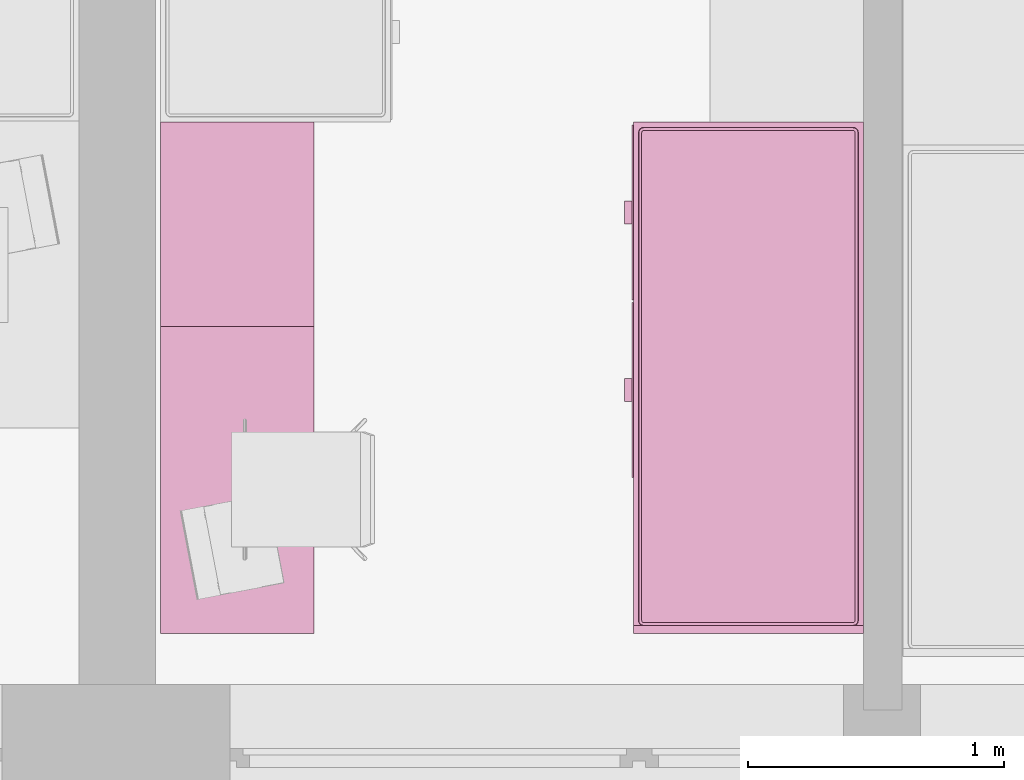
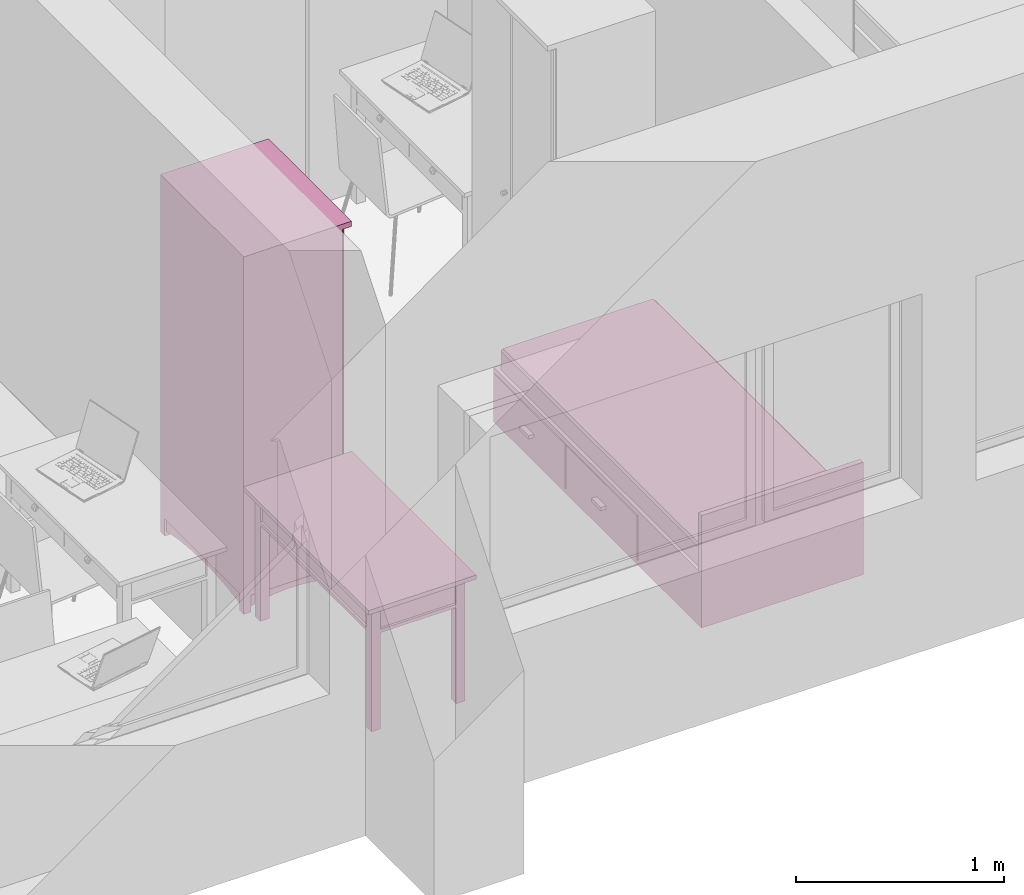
# One storey, part 61 of 165: 3 furnishings.
"""IFC2X3 building model written with IfcOpenShell, lengths in millimetres."""

from ifc_helpers import new_model, entity, si_unit, converted_unit, money_unit, direction, frame, origin_with_axes, place, context, subcontext, project, spatial, faceted_brep, source, transform, mapped, material, material_list, type_object, element, save


model = new_model("IFC2X3")

# Units and contexts
model_context = context("Model", 3, precision=1e-05, world=origin_with_axes(), true_north=direction((0.0, 1.0)))
body_context = subcontext(model_context, "Body", "Model", "MODEL_VIEW")
ifc_project = project(units=[si_unit("LENGTHUNIT", "METRE", prefix="MILLI"), si_unit("AREAUNIT", "SQUARE_METRE"), si_unit("VOLUMEUNIT", "CUBIC_METRE"), converted_unit("PLANEANGLEUNIT", "DEGREE", entity("IfcPlaneAngleMeasure", 0.0174532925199), si_unit("PLANEANGLEUNIT", "RADIAN"), dimensions=[0, 0, 0, 0, 0, 0, 0]), si_unit("SOLIDANGLEUNIT", "STERADIAN"), money_unit("USD"), converted_unit("TIMEUNIT", "Year", entity("IfcTimeMeasure", 31556926.0), si_unit("TIMEUNIT", "SECOND"), dimensions=[0, 0, 0, 0, 0, 0, 0]), si_unit("MASSUNIT", "GRAM"), si_unit("THERMODYNAMICTEMPERATUREUNIT", "DEGREE_CELSIUS"), si_unit("LUMINOUSINTENSITYUNIT", "LUMEN")], contexts=[model_context])

# Site, building, storey
site_placement = place(None, origin_with_axes())
site = spatial("IfcSite", under=ifc_project, at=site_placement, Name="Site", CompositionType="ELEMENT")
building_placement = place(site_placement, origin_with_axes())
building = spatial("IfcBuilding", under=site, at=building_placement, Name="Building", CompositionType="ELEMENT")
storey_placement = place(building_placement, frame((0.0, 0.0, 6300.0), z_axis=(0.0, 0.0, 1.0), x_axis=(1.0, 0.0, 0.0)))
storey = spatial("IfcBuildingStorey", under=building, at=storey_placement, Name="4KORRUS", CompositionType="ELEMENT", Elevation=6300.0)

# Furnishings
ifc_material = material(Name="Background")
ifc_material_list = material_list([ifc_material])
furnishing_element_type_1 = type_object("IfcFurnishingElementType", Name="Bed 19")
shared_shape_1 = source(origin_with_axes(), body_context, "Body", "Brep", [
    faceted_brep([(900.0, 1970.0, 0.0), (0.0, 1970.0, 0.0), (0.0, 2000.0, 0.0), (900.0, 2000.0, 0.0), (900.0, 1970.0, 660.0), (0.0, 1970.0, 660.0), (0.0, 2000.0, 660.0), (900.0, 2000.0, 660.0)], [[[0, 1, 2, 3]], [[1, 0, 4, 5]], [[2, 1, 5, 6]], [[3, 2, 6, 7]], [[0, 3, 7, 4]], [[5, 4, 7, 6]]]),
    faceted_brep([(900.0, 0.0, 0.0), (0.0, 0.0, 0.0), (0.0, 1970.0, 0.0), (900.0, 1970.0, 0.0), (900.0, 0.0, 320.0), (0.0, 0.0, 320.0), (0.0, 1970.0, 320.0), (900.0, 1970.0, 320.0)], [[[0, 1, 2, 3]], [[1, 0, 4, 5]], [[2, 1, 5, 6]], [[3, 2, 6, 7]], [[0, 3, 7, 4]], [[5, 4, 7, 6]]]),
    faceted_brep([(905.0, 10.0, 30.0), (900.0, 10.0, 30.0), (900.0, 695.0, 30.0), (905.0, 695.0, 30.0), (905.0, 10.0, 290.0), (900.0, 10.0, 290.0), (900.0, 695.0, 290.0), (905.0, 695.0, 290.0)], [[[0, 1, 2, 3]], [[1, 0, 4, 5]], [[2, 1, 5, 6]], [[3, 2, 6, 7]], [[0, 3, 7, 4]], [[5, 4, 7, 6]]]),
    faceted_brep([(935.0, 307.5, 150.0), (905.0, 307.5, 150.0), (905.0, 397.5, 150.0), (935.0, 397.5, 150.0), (935.0, 307.5, 170.0), (905.0, 307.5, 170.0), (905.0, 397.5, 170.0), (935.0, 397.5, 170.0)], [[[0, 1, 2, 3]], [[1, 0, 4, 5]], [[2, 1, 5, 6]], [[3, 2, 6, 7]], [[0, 3, 7, 4]], [[5, 4, 7, 6]]]),
    faceted_brep([(905.0, 705.0, 30.0), (900.0, 705.0, 30.0), (900.0, 1390.0, 30.0), (905.0, 1390.0, 30.0), (905.0, 705.0, 290.0), (900.0, 705.0, 290.0), (900.0, 1390.0, 290.0), (905.0, 1390.0, 290.0)], [[[0, 1, 2, 3]], [[1, 0, 4, 5]], [[2, 1, 5, 6]], [[3, 2, 6, 7]], [[0, 3, 7, 4]], [[5, 4, 7, 6]]]),
    faceted_brep([(935.0, 1002.5, 150.0), (905.0, 1002.5, 150.0), (905.0, 1092.5, 150.0), (935.0, 1092.5, 150.0), (935.0, 1002.5, 170.0), (905.0, 1002.5, 170.0), (905.0, 1092.5, 170.0), (935.0, 1092.5, 170.0)], [[[0, 1, 2, 3]], [[1, 0, 4, 5]], [[2, 1, 5, 6]], [[3, 2, 6, 7]], [[0, 3, 7, 4]], [[5, 4, 7, 6]]]),
    faceted_brep([(20.0, 40.0, 350.0), (20.0, 1950.0, 350.0), (21.522, 1957.654, 350.0), (25.858, 1964.142, 350.0), (32.346, 1968.478, 350.0), (40.0, 1970.0, 350.0), (860.0, 1970.0, 350.0), (867.654, 1968.478, 350.0), (874.142, 1964.142, 350.0), (878.478, 1957.654, 350.0), (880.0, 1950.0, 350.0), (880.0, 40.0, 350.0), (878.478, 32.346, 350.0), (874.142, 25.858, 350.0), (867.654, 21.522, 350.0), (860.0, 20.0, 350.0), (40.0, 20.0, 350.0), (32.346, 21.522, 350.0), (25.858, 25.858, 350.0), (21.522, 32.346, 350.0), (20.0, 40.0, 420.0), (20.0, 1950.0, 420.0), (21.522, 1957.654, 420.0), (25.858, 1964.142, 420.0), (32.346, 1968.478, 420.0), (40.0, 1970.0, 420.0), (860.0, 1970.0, 420.0), (867.654, 1968.478, 420.0), (874.142, 1964.142, 420.0), (878.478, 1957.654, 420.0), (880.0, 1950.0, 420.0), (880.0, 40.0, 420.0), (878.478, 32.346, 420.0), (874.142, 25.858, 420.0), (867.654, 21.522, 420.0), (860.0, 20.0, 420.0), (40.0, 20.0, 420.0), (32.346, 21.522, 420.0), (25.858, 25.858, 420.0), (21.522, 32.346, 420.0), (21.522, 40.15, 427.654), (21.522, 1949.85, 427.654), (22.956, 1957.06, 427.654), (26.955, 1963.045, 427.654), (32.94, 1967.044, 427.654), (40.15, 1968.478, 427.654), (859.85, 1968.478, 427.654), (867.06, 1967.044, 427.654), (873.045, 1963.045, 427.654), (877.044, 1957.06, 427.654), (878.478, 1949.85, 427.654), (878.478, 40.15, 427.654), (877.044, 32.94, 427.654), (873.045, 26.955, 427.654), (867.06, 22.956, 427.654), (859.85, 21.522, 427.654), (40.15, 21.522, 427.654), (32.94, 22.956, 427.654), (26.955, 26.955, 427.654), (22.956, 32.94, 427.654), (32.346, 41.216, 438.478), (32.346, 1948.784, 438.478), (33.152, 1952.836, 438.478), (34.759, 1955.241, 438.478), (37.164, 1956.848, 438.478), (41.216, 1957.654, 438.478), (858.784, 1957.654, 438.478), (862.836, 1956.848, 438.478), (865.241, 1955.241, 438.478), (866.848, 1952.836, 438.478), (867.654, 1948.784, 438.478), (867.654, 41.216, 438.478), (866.848, 37.164, 438.478), (865.241, 34.759, 438.478), (862.836, 33.152, 438.478), (858.784, 32.346, 438.478), (41.216, 32.346, 438.478), (37.164, 33.152, 438.478), (34.759, 34.759, 438.478), (33.152, 37.164, 438.478), (40.0, 41.97, 440.0), (40.0, 1948.03, 440.0), (40.327, 1949.673, 440.0), (40.0, 1950.0, 439.924), (41.97, 1950.0, 440.0), (858.03, 1950.0, 440.0), (859.673, 1949.673, 440.0), (860.0, 1950.0, 439.924), (860.0, 1948.03, 440.0), (860.0, 41.97, 440.0), (859.673, 40.327, 440.0), (860.0, 40.0, 439.924), (858.03, 40.0, 440.0), (41.97, 40.0, 440.0), (40.327, 40.327, 440.0), (40.0, 40.0, 439.924)], [[[0, 1, 2, 3, 4, 5, 6, 7, 8, 9, 10, 11, 12, 13, 14, 15, 16, 17, 18, 19]], [[1, 0, 20, 21]], [[2, 1, 21, 22]], [[3, 2, 22, 23]], [[4, 3, 23, 24]], [[5, 4, 24, 25]], [[6, 5, 25, 26]], [[7, 6, 26, 27]], [[8, 7, 27, 28]], [[9, 8, 28, 29]], [[10, 9, 29, 30]], [[11, 10, 30, 31]], [[12, 11, 31, 32]], [[13, 12, 32, 33]], [[14, 13, 33, 34]], [[15, 14, 34, 35]], [[16, 15, 35, 36]], [[17, 16, 36, 37]], [[18, 17, 37, 38]], [[19, 18, 38, 39]], [[0, 19, 39, 20]], [[21, 20, 40, 41]], [[22, 21, 41, 42]], [[23, 22, 42, 43]], [[24, 23, 43, 44]], [[25, 24, 44, 45]], [[26, 25, 45, 46]], [[27, 26, 46, 47]], [[28, 27, 47, 48]], [[29, 28, 48, 49]], [[30, 29, 49, 50]], [[31, 30, 50, 51]], [[32, 31, 51, 52]], [[33, 32, 52, 53]], [[34, 33, 53, 54]], [[35, 34, 54, 55]], [[36, 35, 55, 56]], [[37, 36, 56, 57]], [[38, 37, 57, 58]], [[39, 38, 58, 59]], [[20, 39, 59, 40]], [[41, 40, 60, 61]], [[42, 41, 61, 62]], [[43, 42, 62, 63]], [[44, 43, 63, 64]], [[45, 44, 64, 65]], [[46, 45, 65, 66]], [[47, 46, 66, 67]], [[48, 47, 67, 68]], [[49, 48, 68, 69]], [[50, 49, 69, 70]], [[51, 50, 70, 71]], [[52, 51, 71, 72]], [[53, 52, 72, 73]], [[54, 53, 73, 74]], [[55, 54, 74, 75]], [[56, 55, 75, 76]], [[57, 56, 76, 77]], [[58, 57, 77, 78]], [[59, 58, 78, 79]], [[40, 59, 79, 60]], [[61, 60, 80, 81]], [[62, 61, 81, 82, 83]], [[63, 62, 83]], [[64, 63, 83]], [[65, 64, 83, 82, 84]], [[66, 65, 84, 85]], [[67, 66, 85, 86, 87]], [[68, 67, 87]], [[69, 68, 87]], [[70, 69, 87, 86, 88]], [[71, 70, 88, 89]], [[72, 71, 89, 90, 91]], [[73, 72, 91]], [[74, 73, 91]], [[75, 74, 91, 90, 92]], [[76, 75, 92, 93]], [[77, 76, 93, 94, 95]], [[78, 77, 95]], [[79, 78, 95]], [[60, 79, 95, 94, 80]], [[81, 80, 94, 93, 92, 90, 89, 88, 86, 85, 84, 82]]]),
    faceted_brep([(20.0, 40.0, 350.0), (21.522, 32.346, 350.0), (25.858, 25.858, 350.0), (32.346, 21.522, 350.0), (40.0, 20.0, 350.0), (860.0, 20.0, 350.0), (867.654, 21.522, 350.0), (874.142, 25.858, 350.0), (878.478, 32.346, 350.0), (880.0, 40.0, 350.0), (880.0, 1950.0, 350.0), (878.478, 1957.654, 350.0), (874.142, 1964.142, 350.0), (867.654, 1968.478, 350.0), (860.0, 1970.0, 350.0), (40.0, 1970.0, 350.0), (32.346, 1968.478, 350.0), (25.858, 1964.142, 350.0), (21.522, 1957.654, 350.0), (20.0, 1950.0, 350.0), (20.0, 40.0, 320.0), (21.522, 32.346, 320.0), (25.858, 25.858, 320.0), (32.346, 21.522, 320.0), (40.0, 20.0, 320.0), (860.0, 20.0, 320.0), (867.654, 21.522, 320.0), (874.142, 25.858, 320.0), (878.478, 32.346, 320.0), (880.0, 40.0, 320.0), (880.0, 1950.0, 320.0), (878.478, 1957.654, 320.0), (874.142, 1964.142, 320.0), (867.654, 1968.478, 320.0), (860.0, 1970.0, 320.0), (40.0, 1970.0, 320.0), (32.346, 1968.478, 320.0), (25.858, 1964.142, 320.0), (21.522, 1957.654, 320.0), (20.0, 1950.0, 320.0)], [[[0, 1, 2, 3, 4, 5, 6, 7, 8, 9, 10, 11, 12, 13, 14, 15, 16, 17, 18, 19]], [[0, 20, 21, 1]], [[1, 21, 22, 2]], [[2, 22, 23, 3]], [[3, 23, 24, 4]], [[4, 24, 25, 5]], [[5, 25, 26, 6]], [[6, 26, 27, 7]], [[7, 27, 28, 8]], [[8, 28, 29, 9]], [[9, 29, 30, 10]], [[10, 30, 31, 11]], [[11, 31, 32, 12]], [[12, 32, 33, 13]], [[13, 33, 34, 14]], [[14, 34, 35, 15]], [[15, 35, 36, 16]], [[16, 36, 37, 17]], [[17, 37, 38, 18]], [[18, 38, 39, 19]], [[19, 39, 20, 0]], [[20, 39, 38, 37, 36, 35, 34, 33, 32, 31, 30, 29, 28, 27, 26, 25, 24, 23, 22, 21]]]),
])
furnishing_1_placement = place(storey_placement, frame((-39220.2967033, -17439.2398994, 0.0), z_axis=(0.0, 0.0, 1.0), x_axis=(-1.0, 0.0, 0.0)))
element("IfcFurnishingElement", 1, at=furnishing_1_placement, inside=storey, type_object=furnishing_element_type_1, material=ifc_material_list, Name="FU - 013", context=body_context, shape_type="MappedRepresentation", body=[
    mapped(shared_shape_1, transform((0.0, 0.0, 0.0))),
])
furnishing_element_type_2 = type_object("IfcFurnishingElementType", Name="Cupboard 19")
shared_shape_2 = source(origin_with_axes(), body_context, "Body", "Brep", [
    faceted_brep([(780.0, 600.0, 120.0), (780.0, 600.0, 2050.0), (780.0, 580.0, 2050.0), (780.0, 580.0, 120.0), (20.0, 600.0, 120.0), (20.0, 600.0, 2050.0), (20.0, 580.0, 2050.0), (20.0, 580.0, 120.0)], [[[0, 1, 2, 3]], [[4, 5, 1, 0]], [[1, 5, 6, 2]], [[3, 2, 6, 7]], [[0, 3, 7, 4]], [[7, 6, 5, 4]]]),
    faceted_brep([(0.0, 50.0, 100.0), (0.0, 600.0, 100.0), (20.0, 600.0, 100.0), (20.0, 50.0, 100.0), (0.0, 50.0, 2070.0), (0.0, 600.0, 2070.0), (20.0, 600.0, 2070.0), (20.0, 50.0, 2070.0)], [[[0, 1, 2, 3]], [[0, 4, 5, 1]], [[1, 5, 6, 2]], [[2, 6, 7, 3]], [[3, 7, 4, 0]], [[7, 6, 5, 4]]]),
    faceted_brep([(780.0, 50.0, 100.0), (780.0, 600.0, 100.0), (800.0, 600.0, 100.0), (800.0, 50.0, 100.0), (780.0, 50.0, 2070.0), (780.0, 600.0, 2070.0), (800.0, 600.0, 2070.0), (800.0, 50.0, 2070.0)], [[[0, 1, 2, 3]], [[0, 4, 5, 1]], [[1, 5, 6, 2]], [[2, 6, 7, 3]], [[3, 7, 4, 0]], [[7, 6, 5, 4]]]),
    faceted_brep([(20.0, 50.0, 100.0), (20.0, 600.0, 100.0), (780.0, 600.0, 100.0), (780.0, 50.0, 100.0), (20.0, 50.0, 120.0), (20.0, 600.0, 120.0), (780.0, 600.0, 120.0), (780.0, 50.0, 120.0)], [[[0, 1, 2, 3]], [[0, 4, 5, 1]], [[1, 5, 6, 2]], [[2, 6, 7, 3]], [[3, 7, 4, 0]], [[7, 6, 5, 4]]]),
    faceted_brep([(20.0, 50.0, 2050.0), (20.0, 600.0, 2050.0), (780.0, 600.0, 2050.0), (780.0, 50.0, 2050.0), (20.0, 50.0, 2070.0), (20.0, 600.0, 2070.0), (780.0, 600.0, 2070.0), (780.0, 50.0, 2070.0)], [[[0, 1, 2, 3]], [[0, 4, 5, 1]], [[1, 5, 6, 2]], [[2, 6, 7, 3]], [[3, 7, 4, 0]], [[7, 6, 5, 4]]]),
    faceted_brep([(0.0, 600.0, 2070.0), (0.0, 0.0, 2070.0), (0.0, 0.0, 2100.0), (0.0, 600.0, 2100.0), (800.0, 600.0, 2070.0), (800.0, 0.0, 2070.0), (800.0, 0.0, 2100.0), (800.0, 600.0, 2100.0)], [[[0, 1, 2, 3]], [[0, 4, 5, 1]], [[1, 5, 6, 2]], [[3, 2, 6, 7]], [[4, 0, 3, 7]], [[5, 4, 7, 6]]]),
    faceted_brep([(760.0, 590.0, 25.0), (760.0, 570.0, 25.0), (640.962, 570.0, 45.8), (640.962, 590.0, 45.8), (760.0, 590.0, 100.0), (760.0, 570.0, 100.0), (40.0, 570.0, 100.0), (40.0, 570.0, 25.0), (159.038, 570.0, 45.8), (279.23, 570.0, 58.32), (400.0, 570.0, 62.5), (520.77, 570.0, 58.32), (520.77, 590.0, 58.32), (400.0, 590.0, 62.5), (279.23, 590.0, 58.32), (159.038, 590.0, 45.8), (40.0, 590.0, 25.0), (40.0, 590.0, 100.0)], [[[0, 1, 2, 3]], [[4, 5, 1, 0]], [[1, 5, 6, 7, 8, 9, 10, 11, 2]], [[3, 2, 11, 12]], [[0, 3, 12, 13, 14, 15, 16, 17, 4]], [[17, 6, 5, 4]], [[16, 7, 6, 17]], [[15, 8, 7, 16]], [[14, 9, 8, 15]], [[13, 10, 9, 14]], [[12, 11, 10, 13]]]),
    faceted_brep([(760.0, 80.0, 25.0), (760.0, 60.0, 25.0), (640.962, 60.0, 45.8), (640.962, 80.0, 45.8), (760.0, 80.0, 100.0), (760.0, 60.0, 100.0), (40.0, 60.0, 100.0), (40.0, 60.0, 25.0), (159.038, 60.0, 45.8), (279.23, 60.0, 58.32), (400.0, 60.0, 62.5), (520.77, 60.0, 58.32), (520.77, 80.0, 58.32), (400.0, 80.0, 62.5), (279.23, 80.0, 58.32), (159.038, 80.0, 45.8), (40.0, 80.0, 25.0), (40.0, 80.0, 100.0)], [[[0, 1, 2, 3]], [[4, 5, 1, 0]], [[1, 5, 6, 7, 8, 9, 10, 11, 2]], [[3, 2, 11, 12]], [[0, 3, 12, 13, 14, 15, 16, 17, 4]], [[17, 6, 5, 4]], [[16, 7, 6, 17]], [[15, 8, 7, 16]], [[14, 9, 8, 15]], [[13, 10, 9, 14]], [[12, 11, 10, 13]]]),
    faceted_brep([(790.0, 90.0, 25.0), (770.0, 90.0, 25.0), (770.0, 141.266, 38.072), (790.0, 141.266, 38.072), (790.0, 90.0, 100.0), (770.0, 90.0, 100.0), (770.0, 560.0, 100.0), (770.0, 560.0, 25.0), (770.0, 508.734, 38.072), (770.0, 456.752, 47.92), (770.0, 404.257, 54.508), (770.0, 351.453, 57.808), (770.0, 298.547, 57.808), (770.0, 245.743, 54.508), (770.0, 193.248, 47.92), (790.0, 193.248, 47.92), (790.0, 245.743, 54.508), (790.0, 298.547, 57.808), (790.0, 351.453, 57.808), (790.0, 404.257, 54.508), (790.0, 456.752, 47.92), (790.0, 508.734, 38.072), (790.0, 560.0, 25.0), (790.0, 560.0, 100.0)], [[[0, 1, 2, 3]], [[4, 5, 1, 0]], [[1, 5, 6, 7, 8, 9, 10, 11, 12, 13, 14, 2]], [[3, 2, 14, 15]], [[0, 3, 15, 16, 17, 18, 19, 20, 21, 22, 23, 4]], [[23, 6, 5, 4]], [[22, 7, 6, 23]], [[21, 8, 7, 22]], [[20, 9, 8, 21]], [[19, 10, 9, 20]], [[18, 11, 10, 19]], [[17, 12, 11, 18]], [[16, 13, 12, 17]], [[15, 14, 13, 16]]]),
    faceted_brep([(30.0, 90.0, 25.0), (10.0, 90.0, 25.0), (10.0, 141.266, 38.072), (30.0, 141.266, 38.072), (30.0, 90.0, 100.0), (10.0, 90.0, 100.0), (10.0, 560.0, 100.0), (10.0, 560.0, 25.0), (10.0, 508.734, 38.072), (10.0, 456.752, 47.92), (10.0, 404.257, 54.508), (10.0, 351.453, 57.808), (10.0, 298.547, 57.808), (10.0, 245.743, 54.508), (10.0, 193.248, 47.92), (30.0, 193.248, 47.92), (30.0, 245.743, 54.508), (30.0, 298.547, 57.808), (30.0, 351.453, 57.808), (30.0, 404.257, 54.508), (30.0, 456.752, 47.92), (30.0, 508.734, 38.072), (30.0, 560.0, 25.0), (30.0, 560.0, 100.0)], [[[0, 1, 2, 3]], [[4, 5, 1, 0]], [[1, 5, 6, 7, 8, 9, 10, 11, 12, 13, 14, 2]], [[3, 2, 14, 15]], [[0, 3, 15, 16, 17, 18, 19, 20, 21, 22, 23, 4]], [[23, 6, 5, 4]], [[22, 7, 6, 23]], [[21, 8, 7, 22]], [[20, 9, 8, 21]], [[19, 10, 9, 20]], [[18, 11, 10, 19]], [[17, 12, 11, 18]], [[16, 13, 12, 17]], [[15, 14, 13, 16]]]),
    faceted_brep([(760.0, 560.0, 0.0), (760.0, 560.0, 100.0), (760.0, 600.0, 100.0), (760.0, 600.0, 0.0), (800.0, 560.0, 0.0), (800.0, 560.0, 100.0), (800.0, 600.0, 100.0), (800.0, 600.0, 0.0)], [[[0, 1, 2, 3]], [[4, 5, 1, 0]], [[1, 5, 6, 2]], [[3, 2, 6, 7]], [[0, 3, 7, 4]], [[7, 6, 5, 4]]]),
    faceted_brep([(0.0, 560.0, 0.0), (0.0, 560.0, 100.0), (0.0, 600.0, 100.0), (0.0, 600.0, 0.0), (40.0, 560.0, 0.0), (40.0, 560.0, 100.0), (40.0, 600.0, 100.0), (40.0, 600.0, 0.0)], [[[0, 1, 2, 3]], [[4, 5, 1, 0]], [[1, 5, 6, 2]], [[3, 2, 6, 7]], [[0, 3, 7, 4]], [[7, 6, 5, 4]]]),
    faceted_brep([(760.0, 50.0, 0.0), (760.0, 50.0, 100.0), (760.0, 90.0, 100.0), (760.0, 90.0, 0.0), (800.0, 50.0, 0.0), (800.0, 50.0, 100.0), (800.0, 90.0, 100.0), (800.0, 90.0, 0.0)], [[[0, 1, 2, 3]], [[4, 5, 1, 0]], [[1, 5, 6, 2]], [[3, 2, 6, 7]], [[0, 3, 7, 4]], [[7, 6, 5, 4]]]),
    faceted_brep([(0.0, 50.0, 0.0), (0.0, 50.0, 100.0), (0.0, 90.0, 100.0), (0.0, 90.0, 0.0), (40.0, 50.0, 0.0), (40.0, 50.0, 100.0), (40.0, 90.0, 100.0), (40.0, 90.0, 0.0)], [[[0, 1, 2, 3]], [[4, 5, 1, 0]], [[1, 5, 6, 2]], [[3, 2, 6, 7]], [[0, 3, 7, 4]], [[7, 6, 5, 4]]]),
    faceted_brep([(780.0, 580.0, 587.5), (780.0, 580.0, 607.5), (780.0, 50.0, 607.5), (780.0, 50.0, 587.5), (20.0, 580.0, 587.5), (20.0, 580.0, 607.5), (20.0, 50.0, 607.5), (20.0, 50.0, 587.5)], [[[0, 1, 2, 3]], [[4, 5, 1, 0]], [[1, 5, 6, 2]], [[3, 2, 6, 7]], [[0, 3, 7, 4]], [[7, 6, 5, 4]]]),
    faceted_brep([(780.0, 580.0, 1075.0), (780.0, 580.0, 1095.0), (780.0, 50.0, 1095.0), (780.0, 50.0, 1075.0), (20.0, 580.0, 1075.0), (20.0, 580.0, 1095.0), (20.0, 50.0, 1095.0), (20.0, 50.0, 1075.0)], [[[0, 1, 2, 3]], [[4, 5, 1, 0]], [[1, 5, 6, 2]], [[3, 2, 6, 7]], [[0, 3, 7, 4]], [[7, 6, 5, 4]]]),
    faceted_brep([(780.0, 580.0, 1562.5), (780.0, 580.0, 1582.5), (780.0, 50.0, 1582.5), (780.0, 50.0, 1562.5), (20.0, 580.0, 1562.5), (20.0, 580.0, 1582.5), (20.0, 50.0, 1582.5), (20.0, 50.0, 1562.5)], [[[0, 1, 2, 3]], [[4, 5, 1, 0]], [[1, 5, 6, 2]], [[3, 2, 6, 7]], [[0, 3, 7, 4]], [[7, 6, 5, 4]]]),
    faceted_brep([(789.5, 50.0, 110.5), (400.5, 50.0, 110.5), (400.5, 50.0, 2059.5), (789.5, 50.0, 2059.5), (789.5, 40.0, 110.5), (400.5, 40.0, 110.5), (400.5, 40.0, 2059.5), (789.5, 40.0, 2059.5), (779.5, 30.0, 120.5), (410.5, 30.0, 120.5), (410.5, 30.0, 2049.5), (779.5, 30.0, 2049.5)], [[[0, 1, 2, 3]], [[0, 4, 5, 1]], [[1, 5, 6, 2]], [[2, 6, 7, 3]], [[3, 7, 4, 0]], [[4, 8, 9, 5]], [[5, 9, 10, 6]], [[6, 10, 11, 7]], [[7, 11, 8, 4]], [[10, 9, 8, 11]]]),
    faceted_brep([(399.5, 50.0, 110.5), (10.5, 50.0, 110.5), (10.5, 50.0, 2059.5), (399.5, 50.0, 2059.5), (399.5, 40.0, 110.5), (10.5, 40.0, 110.5), (10.5, 40.0, 2059.5), (399.5, 40.0, 2059.5), (389.5, 30.0, 120.5), (20.5, 30.0, 120.5), (20.5, 30.0, 2049.5), (389.5, 30.0, 2049.5)], [[[0, 1, 2, 3]], [[0, 4, 5, 1]], [[1, 5, 6, 2]], [[2, 6, 7, 3]], [[3, 7, 4, 0]], [[4, 8, 9, 5]], [[5, 9, 10, 6]], [[6, 10, 11, 7]], [[7, 11, 8, 4]], [[10, 9, 8, 11]]]),
    faceted_brep([(339.608, 30.0, 954.0), (338.0, 30.0, 960.0), (339.608, 30.0, 966.0), (344.0, 30.0, 970.392), (350.0, 30.0, 972.0), (356.0, 30.0, 970.392), (360.392, 30.0, 966.0), (362.0, 30.0, 960.0), (360.392, 30.0, 954.0), (356.0, 30.0, 949.608), (350.0, 30.0, 948.0), (344.0, 30.0, 949.608), (339.608, 5.0, 954.0), (338.0, 5.0, 960.0), (339.608, 5.0, 966.0), (344.0, 5.0, 970.392), (350.0, 5.0, 972.0), (356.0, 5.0, 970.392), (360.392, 5.0, 966.0), (362.0, 5.0, 960.0), (360.392, 5.0, 954.0), (356.0, 5.0, 949.608), (350.0, 5.0, 948.0), (344.0, 5.0, 949.608)], [[[0, 1, 2, 3, 4, 5, 6, 7, 8, 9, 10, 11]], [[0, 12, 13, 1]], [[1, 13, 14, 2]], [[2, 14, 15, 3]], [[3, 15, 16, 4]], [[4, 16, 17, 5]], [[5, 17, 18, 6]], [[6, 18, 19, 7]], [[7, 19, 20, 8]], [[8, 20, 21, 9]], [[9, 21, 22, 10]], [[10, 22, 23, 11]], [[11, 23, 12, 0]], [[12, 23, 22, 21, 20, 19, 18, 17, 16, 15, 14, 13]]]),
    faceted_brep([(460.392, 30.0, 954.0), (456.0, 30.0, 949.608), (450.0, 30.0, 948.0), (444.0, 30.0, 949.608), (439.608, 30.0, 954.0), (438.0, 30.0, 960.0), (439.608, 30.0, 966.0), (444.0, 30.0, 970.392), (450.0, 30.0, 972.0), (456.0, 30.0, 970.392), (460.392, 30.0, 966.0), (462.0, 30.0, 960.0), (460.392, 5.0, 954.0), (456.0, 5.0, 949.608), (450.0, 5.0, 948.0), (444.0, 5.0, 949.608), (439.608, 5.0, 954.0), (438.0, 5.0, 960.0), (439.608, 5.0, 966.0), (444.0, 5.0, 970.392), (450.0, 5.0, 972.0), (456.0, 5.0, 970.392), (460.392, 5.0, 966.0), (462.0, 5.0, 960.0)], [[[0, 1, 2, 3, 4, 5, 6, 7, 8, 9, 10, 11]], [[1, 0, 12, 13]], [[2, 1, 13, 14]], [[3, 2, 14, 15]], [[4, 3, 15, 16]], [[5, 4, 16, 17]], [[6, 5, 17, 18]], [[7, 6, 18, 19]], [[8, 7, 19, 20]], [[9, 8, 20, 21]], [[10, 9, 21, 22]], [[11, 10, 22, 23]], [[0, 11, 23, 12]], [[12, 23, 22, 21, 20, 19, 18, 17, 16, 15, 14, 13]]]),
])
furnishing_2_placement = place(storey_placement, frame((-41370.2967033, -18239.2398994, 0.0), z_axis=(0.0, 0.0, 1.0), x_axis=(0.0, 1.0, 0.0)))
element("IfcFurnishingElement", 2, at=furnishing_2_placement, inside=storey, type_object=furnishing_element_type_2, material=ifc_material_list, Name="FU - 014", context=body_context, shape_type="MappedRepresentation", body=[
    mapped(shared_shape_2, transform((0.0, 0.0, 0.0))),
])
furnishing_element_type_3 = type_object("IfcFurnishingElementType", Name="Rectangular Table 01 19")
shared_shape_3 = source(origin_with_axes(), body_context, "Body", "Brep", [
    faceted_brep([(90.0, 40.0, 0.0), (40.0, 40.0, 0.0), (40.0, 90.0, 0.0), (90.0, 90.0, 0.0), (90.0, 40.0, 725.0), (40.0, 40.0, 725.0), (40.0, 90.0, 725.0), (90.0, 90.0, 725.0)], [[[0, 1, 2, 3]], [[1, 0, 4, 5]], [[2, 1, 5, 6]], [[3, 2, 6, 7]], [[0, 3, 7, 4]], [[5, 4, 7, 6]]]),
    faceted_brep([(1160.0, 40.0, 0.0), (1110.0, 40.0, 0.0), (1110.0, 90.0, 0.0), (1160.0, 90.0, 0.0), (1160.0, 40.0, 725.0), (1110.0, 40.0, 725.0), (1110.0, 90.0, 725.0), (1160.0, 90.0, 725.0)], [[[0, 1, 2, 3]], [[1, 0, 4, 5]], [[2, 1, 5, 6]], [[3, 2, 6, 7]], [[0, 3, 7, 4]], [[5, 4, 7, 6]]]),
    faceted_brep([(90.0, 510.0, 0.0), (40.0, 510.0, 0.0), (40.0, 560.0, 0.0), (90.0, 560.0, 0.0), (90.0, 510.0, 725.0), (40.0, 510.0, 725.0), (40.0, 560.0, 725.0), (90.0, 560.0, 725.0)], [[[0, 1, 2, 3]], [[1, 0, 4, 5]], [[2, 1, 5, 6]], [[3, 2, 6, 7]], [[0, 3, 7, 4]], [[5, 4, 7, 6]]]),
    faceted_brep([(1160.0, 510.0, 0.0), (1110.0, 510.0, 0.0), (1110.0, 560.0, 0.0), (1160.0, 560.0, 0.0), (1160.0, 510.0, 725.0), (1110.0, 510.0, 725.0), (1110.0, 560.0, 725.0), (1160.0, 560.0, 725.0)], [[[0, 1, 2, 3]], [[1, 0, 4, 5]], [[2, 1, 5, 6]], [[3, 2, 6, 7]], [[0, 3, 7, 4]], [[5, 4, 7, 6]]]),
    faceted_brep([(1160.0, 40.0, 565.0), (40.0, 40.0, 565.0), (40.0, 560.0, 565.0), (1160.0, 560.0, 565.0), (1160.0, 40.0, 585.0), (40.0, 40.0, 585.0), (40.0, 560.0, 585.0), (1160.0, 560.0, 585.0)], [[[0, 1, 2, 3]], [[1, 0, 4, 5]], [[2, 1, 5, 6]], [[3, 2, 6, 7]], [[0, 3, 7, 4]], [[5, 4, 7, 6]]]),
    faceted_brep([(1110.0, 52.5, 585.0), (90.0, 52.5, 585.0), (90.0, 77.5, 585.0), (1110.0, 77.5, 585.0), (1110.0, 52.5, 745.0), (90.0, 52.5, 745.0), (90.0, 77.5, 745.0), (1110.0, 77.5, 745.0)], [[[0, 1, 2, 3]], [[1, 0, 4, 5]], [[2, 1, 5, 6]], [[3, 2, 6, 7]], [[0, 3, 7, 4]], [[5, 4, 7, 6]]]),
    faceted_brep([(77.5, 90.0, 585.0), (52.5, 90.0, 585.0), (52.5, 510.0, 585.0), (77.5, 510.0, 585.0), (77.5, 90.0, 745.0), (52.5, 90.0, 745.0), (52.5, 510.0, 745.0), (77.5, 510.0, 745.0)], [[[0, 1, 2, 3]], [[1, 0, 4, 5]], [[2, 1, 5, 6]], [[3, 2, 6, 7]], [[0, 3, 7, 4]], [[5, 4, 7, 6]]]),
    faceted_brep([(90.0, 547.5, 585.0), (1110.0, 547.5, 585.0), (1110.0, 522.5, 585.0), (90.0, 522.5, 585.0), (90.0, 547.5, 745.0), (1110.0, 547.5, 745.0), (1110.0, 522.5, 745.0), (90.0, 522.5, 745.0)], [[[0, 1, 2, 3]], [[1, 0, 4, 5]], [[2, 1, 5, 6]], [[3, 2, 6, 7]], [[0, 3, 7, 4]], [[5, 4, 7, 6]]]),
    faceted_brep([(1122.5, 510.0, 585.0), (1147.5, 510.0, 585.0), (1147.5, 90.0, 585.0), (1122.5, 90.0, 585.0), (1122.5, 510.0, 745.0), (1147.5, 510.0, 745.0), (1147.5, 90.0, 745.0), (1122.5, 90.0, 745.0)], [[[0, 1, 2, 3]], [[1, 0, 4, 5]], [[2, 1, 5, 6]], [[3, 2, 6, 7]], [[0, 3, 7, 4]], [[5, 4, 7, 6]]]),
    faceted_brep([(597.5, 40.0, 585.0), (95.0, 40.0, 585.0), (95.0, 60.0, 585.0), (597.5, 60.0, 585.0), (597.5, 40.0, 745.0), (95.0, 40.0, 745.0), (95.0, 60.0, 745.0), (597.5, 60.0, 745.0)], [[[0, 1, 2, 3]], [[1, 0, 4, 5]], [[2, 1, 5, 6]], [[3, 2, 6, 7]], [[0, 3, 7, 4]], [[5, 4, 7, 6]]]),
    faceted_brep([(1105.0, 40.0, 585.0), (602.5, 40.0, 585.0), (602.5, 60.0, 585.0), (1105.0, 60.0, 585.0), (1105.0, 40.0, 745.0), (602.5, 40.0, 745.0), (602.5, 60.0, 745.0), (1105.0, 60.0, 745.0)], [[[0, 1, 2, 3]], [[1, 0, 4, 5]], [[2, 1, 5, 6]], [[3, 2, 6, 7]], [[0, 3, 7, 4]], [[5, 4, 7, 6]]]),
    faceted_brep([(354.91, 40.0, 660.0), (351.25, 40.0, 656.34), (346.25, 40.0, 655.0), (341.25, 40.0, 656.34), (337.59, 40.0, 660.0), (336.25, 40.0, 665.0), (337.59, 40.0, 670.0), (341.25, 40.0, 673.66), (346.25, 40.0, 675.0), (351.25, 40.0, 673.66), (354.91, 40.0, 670.0), (356.25, 40.0, 665.0), (354.91, 25.0, 660.0), (351.25, 25.0, 656.34), (346.25, 25.0, 655.0), (341.25, 25.0, 656.34), (337.59, 25.0, 660.0), (336.25, 25.0, 665.0), (337.59, 25.0, 670.0), (341.25, 25.0, 673.66), (346.25, 25.0, 675.0), (351.25, 25.0, 673.66), (354.91, 25.0, 670.0), (356.25, 25.0, 665.0)], [[[0, 1, 2, 3, 4, 5, 6, 7, 8, 9, 10, 11]], [[1, 0, 12, 13]], [[2, 1, 13, 14]], [[3, 2, 14, 15]], [[4, 3, 15, 16]], [[5, 4, 16, 17]], [[6, 5, 17, 18]], [[7, 6, 18, 19]], [[8, 7, 19, 20]], [[9, 8, 20, 21]], [[10, 9, 21, 22]], [[11, 10, 22, 23]], [[0, 11, 23, 12]], [[12, 23, 22, 21, 20, 19, 18, 17, 16, 15, 14, 13]]]),
    faceted_brep([(356.25, 12.01, 665.0), (346.25, 10.0, 665.0), (354.91, 12.01, 660.0), (354.91, 12.01, 670.0), (351.25, 12.01, 656.34), (363.571, 17.5, 665.0), (361.25, 17.5, 656.34), (351.25, 12.01, 673.66), (361.25, 17.5, 673.66), (346.25, 12.01, 655.0), (354.91, 17.5, 650.0), (366.25, 25.0, 665.0), (363.571, 25.0, 655.0), (346.25, 12.01, 675.0), (354.91, 17.5, 680.0), (363.571, 25.0, 675.0), (341.25, 12.01, 656.34), (346.25, 17.5, 647.679), (356.25, 25.0, 647.679), (346.25, 25.0, 645.0), (336.25, 25.0, 647.679), (328.929, 25.0, 655.0), (326.25, 25.0, 665.0), (328.929, 25.0, 675.0), (336.25, 25.0, 682.321), (346.25, 25.0, 685.0), (356.25, 25.0, 682.321), (341.25, 12.01, 673.66), (346.25, 17.5, 682.321), (337.59, 12.01, 660.0), (337.59, 17.5, 650.0), (331.25, 17.5, 656.34), (328.929, 17.5, 665.0), (331.25, 17.5, 673.66), (337.59, 17.5, 680.0), (337.59, 12.01, 670.0), (336.25, 12.01, 665.0)], [[[0, 1, 2]], [[3, 1, 0]], [[2, 1, 4]], [[5, 0, 2, 6]], [[7, 1, 3]], [[8, 3, 0, 5]], [[4, 1, 9]], [[6, 2, 4, 10]], [[11, 5, 6, 12]], [[13, 1, 7]], [[14, 7, 3, 8]], [[15, 8, 5, 11]], [[9, 1, 16]], [[10, 4, 9, 17]], [[12, 6, 10, 18]], [[12, 18, 19, 20, 21, 22, 23, 24, 25, 26, 15, 11]], [[27, 1, 13]], [[28, 13, 7, 14]], [[26, 14, 8, 15]], [[16, 1, 29]], [[17, 9, 16, 30]], [[18, 10, 17, 19]], [[19, 17, 30, 20]], [[20, 30, 31, 21]], [[21, 31, 32, 22]], [[22, 32, 33, 23]], [[23, 33, 34, 24]], [[24, 34, 28, 25]], [[25, 28, 14, 26]], [[35, 1, 27]], [[34, 27, 13, 28]], [[29, 1, 36]], [[30, 16, 29, 31]], [[31, 29, 36, 32]], [[32, 36, 35, 33]], [[33, 35, 27, 34]], [[36, 1, 35]]]),
    faceted_brep([(862.41, 40.0, 660.0), (858.75, 40.0, 656.34), (853.75, 40.0, 655.0), (848.75, 40.0, 656.34), (845.09, 40.0, 660.0), (843.75, 40.0, 665.0), (845.09, 40.0, 670.0), (848.75, 40.0, 673.66), (853.75, 40.0, 675.0), (858.75, 40.0, 673.66), (862.41, 40.0, 670.0), (863.75, 40.0, 665.0), (862.41, 25.0, 660.0), (858.75, 25.0, 656.34), (853.75, 25.0, 655.0), (848.75, 25.0, 656.34), (845.09, 25.0, 660.0), (843.75, 25.0, 665.0), (845.09, 25.0, 670.0), (848.75, 25.0, 673.66), (853.75, 25.0, 675.0), (858.75, 25.0, 673.66), (862.41, 25.0, 670.0), (863.75, 25.0, 665.0)], [[[0, 1, 2, 3, 4, 5, 6, 7, 8, 9, 10, 11]], [[1, 0, 12, 13]], [[2, 1, 13, 14]], [[3, 2, 14, 15]], [[4, 3, 15, 16]], [[5, 4, 16, 17]], [[6, 5, 17, 18]], [[7, 6, 18, 19]], [[8, 7, 19, 20]], [[9, 8, 20, 21]], [[10, 9, 21, 22]], [[11, 10, 22, 23]], [[0, 11, 23, 12]], [[12, 23, 22, 21, 20, 19, 18, 17, 16, 15, 14, 13]]]),
    faceted_brep([(863.75, 12.01, 665.0), (853.75, 10.0, 665.0), (862.41, 12.01, 660.0), (862.41, 12.01, 670.0), (858.75, 12.01, 656.34), (871.071, 17.5, 665.0), (868.75, 17.5, 656.34), (858.75, 12.01, 673.66), (868.75, 17.5, 673.66), (853.75, 12.01, 655.0), (862.41, 17.5, 650.0), (873.75, 25.0, 665.0), (871.071, 25.0, 655.0), (853.75, 12.01, 675.0), (862.41, 17.5, 680.0), (871.071, 25.0, 675.0), (848.75, 12.01, 656.34), (853.75, 17.5, 647.679), (863.75, 25.0, 647.679), (853.75, 25.0, 645.0), (843.75, 25.0, 647.679), (836.429, 25.0, 655.0), (833.75, 25.0, 665.0), (836.429, 25.0, 675.0), (843.75, 25.0, 682.321), (853.75, 25.0, 685.0), (863.75, 25.0, 682.321), (848.75, 12.01, 673.66), (853.75, 17.5, 682.321), (845.09, 12.01, 660.0), (845.09, 17.5, 650.0), (838.75, 17.5, 656.34), (836.429, 17.5, 665.0), (838.75, 17.5, 673.66), (845.09, 17.5, 680.0), (845.09, 12.01, 670.0), (843.75, 12.01, 665.0)], [[[0, 1, 2]], [[3, 1, 0]], [[2, 1, 4]], [[5, 0, 2, 6]], [[7, 1, 3]], [[8, 3, 0, 5]], [[4, 1, 9]], [[6, 2, 4, 10]], [[11, 5, 6, 12]], [[13, 1, 7]], [[14, 7, 3, 8]], [[15, 8, 5, 11]], [[9, 1, 16]], [[10, 4, 9, 17]], [[12, 6, 10, 18]], [[12, 18, 19, 20, 21, 22, 23, 24, 25, 26, 15, 11]], [[27, 1, 13]], [[28, 13, 7, 14]], [[26, 14, 8, 15]], [[16, 1, 29]], [[17, 9, 16, 30]], [[18, 10, 17, 19]], [[19, 17, 30, 20]], [[20, 30, 31, 21]], [[21, 31, 32, 22]], [[22, 32, 33, 23]], [[23, 33, 34, 24]], [[24, 34, 28, 25]], [[25, 28, 14, 26]], [[35, 1, 27]], [[34, 27, 13, 28]], [[29, 1, 36]], [[30, 16, 29, 31]], [[31, 29, 36, 32]], [[32, 36, 35, 33]], [[33, 35, 27, 34]], [[36, 1, 35]]]),
    faceted_brep([(1200.0, 0.0, 725.0), (0.0, 0.0, 725.0), (0.0, 600.0, 725.0), (1200.0, 600.0, 725.0), (1200.0, 0.0, 750.0), (0.0, 0.0, 750.0), (0.0, 600.0, 750.0), (1200.0, 600.0, 750.0)], [[[0, 1, 2, 3]], [[1, 0, 4, 5]], [[2, 1, 5, 6]], [[3, 2, 6, 7]], [[0, 3, 7, 4]], [[5, 4, 7, 6]]]),
])
furnishing_3_placement = place(storey_placement, frame((-41370.2967033, -19439.2398994, 0.0), z_axis=(0.0, 0.0, 1.0), x_axis=(0.0, 1.0, 0.0)))
element("IfcFurnishingElement", 3, at=furnishing_3_placement, inside=storey, type_object=furnishing_element_type_3, material=ifc_material_list, Name="FU - 011", context=body_context, shape_type="MappedRepresentation", body=[
    mapped(shared_shape_3, transform((0.0, 0.0, 0.0))),
])

save(model, "model.ifc")
